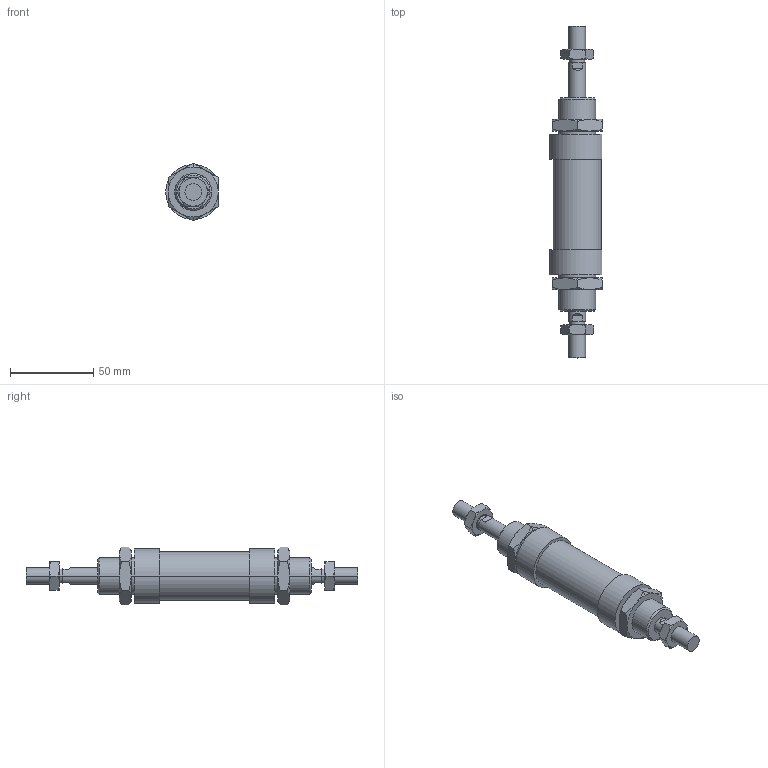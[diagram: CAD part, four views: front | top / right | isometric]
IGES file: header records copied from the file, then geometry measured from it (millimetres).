
Global section: file name: No Iges File Name specified; native system: AutoDesk Inventor R6.0; preprocessor: AutoDesk Inventor Iges Exporter R6.0; author: No Author specified; organization: No Organization specified; date: 20030403.072427; units: millimetre
Bounding box: 31.5 x 199 x 34.64 mm (x, y, z)
Volume: 90100.1 mm3; surface area: 29444.6 mm2
Topology: 6 solids, 6 shells, 184 faces, 396 edges, 232 vertices
Faces by surface type: cone 68, plane 60, bspline 30, cylinder 20, revolution 6
